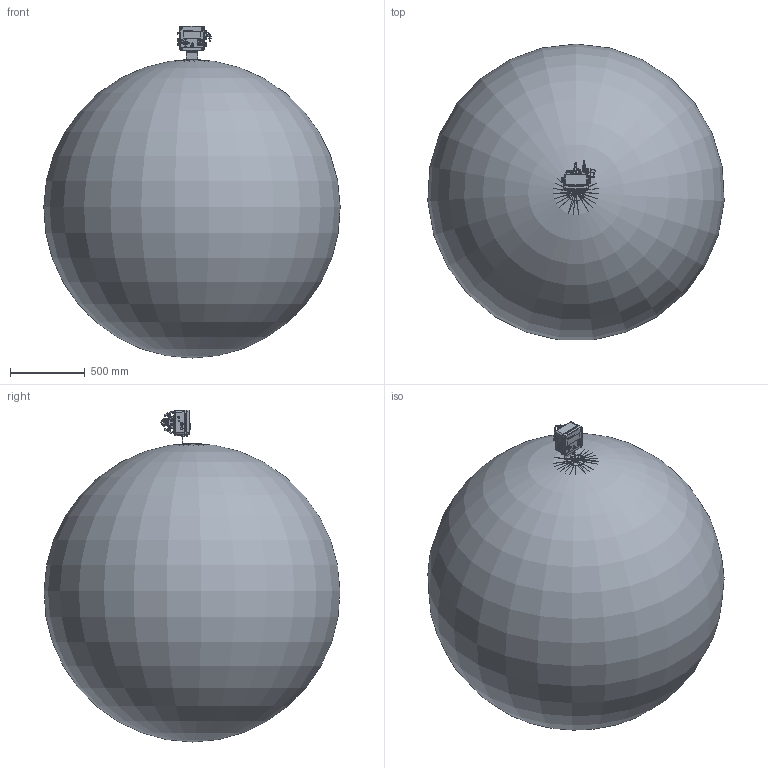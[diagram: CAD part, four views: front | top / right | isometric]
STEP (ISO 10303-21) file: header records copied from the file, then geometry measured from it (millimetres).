
FILE_DESCRIPTION(('STEP AP214'), '1');
FILE_NAME('ÑÃ-ÝÊÐ-Ò-Á DN100 ïðàâûé ñ ÏÏÄ', '', ('UNSPECIFIED'), ('UNSPECIFIED'), 'C3D Converter', 'C3D Toolkit', '');
FILE_SCHEMA(('AUTOMOTIVE_DESIGN { 1 0 10303 214 3 1 1}'));
Length unit declared in the file: millimetre
Products named in the file (1): УРГП.407262.016
Bounding box: 1985.41 x 1982.05 x 2224.17 mm (x, y, z)
Volume: 4128309851.9 mm3; surface area: 13252620.4 mm2
Topology: 6 solids, 7 shells, 4056 faces, 10539 edges, 6805 vertices
Faces by surface type: plane 1410, extrusion 1133, cylinder 919, cone 293, bspline 189, torus 97, sphere 15
Full cylindrical faces by diameter (mm): 2 x23, 2.5 x4, 2.791 x1, 3 x3, 3.2 x2, 3.242 x8, 3.3 x2, 4 x25, 4.134 x2, 4.3 x2, 4.5 x2, 4.917 x4, 5 x15, 5.2 x4, 5.5 x6, 6 x20, 6.2 x4, 6.3 x6, 6.6 x2, 7 x11, 8 x5, 8.1 x1, 8.5 x1, 8.77 x2, 9.264 x1, 9.4 x4, 9.5 x1, 9.8 x2, 10 x24, 10.376 x3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
Entity records: 263191 total; most frequent: CARTESIAN_POINT 127778, ORIENTED_EDGE 22069, DIRECTION 16264, EDGE_CURVE 11093, VERTEX_POINT 7550, VECTOR 5626, EDGE_LOOP 5498, AXIS2_PLACEMENT_3D 5319
